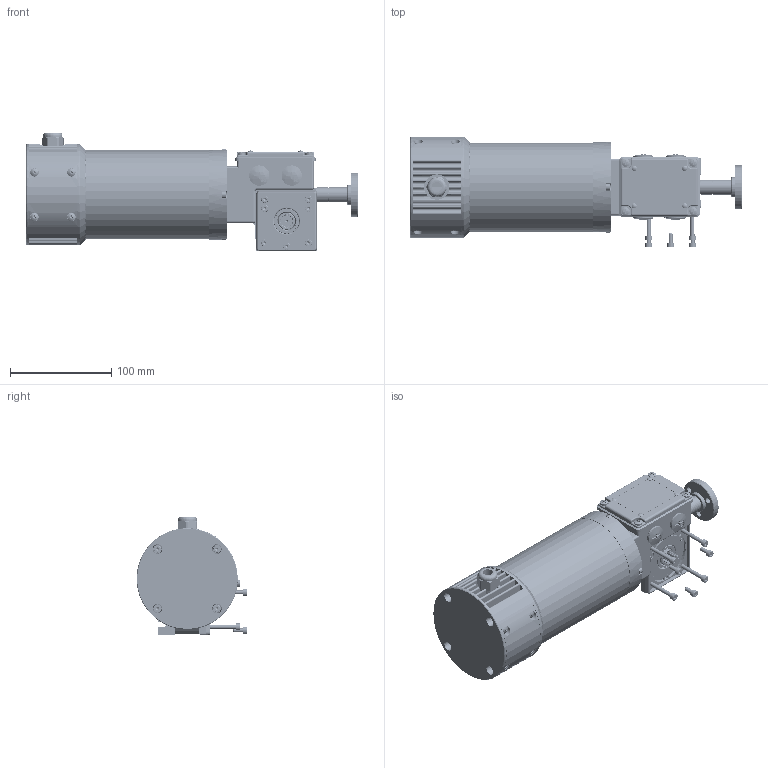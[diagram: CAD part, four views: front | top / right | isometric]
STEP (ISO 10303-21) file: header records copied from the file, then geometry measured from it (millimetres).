
FILE_DESCRIPTION(/* description */ ('ANELLO OR 67.94X2.62 TIPO 32.68 VITON'),/* implementation_level */ '2;1');
FILE_NAME(/* name */ 'C:\Users\giuseppe.caruso.MINIMOTOR\Desktop\MODELLI STP\WEB\MCCE...MP4N B3S.stp',/* time_stamp */ '2014-07-10T11:35:09+02:00',/* author */ ('giuseppe.caruso'),/* organization */ (''),/* preprocessor_version */ 'ST-DEVELOPER v15.6',/* originating_system */ 'Autodesk Inventor 2015',/* authorisation */ '');
FILE_SCHEMA (('AUTOMOTIVE_DESIGN { 1 0 10303 214 3 1 1 }'));
Products named in the file (48): OR001; CRT001-1; CRT001-2; CRT001-3; CRT001-4; CRT001-5; CRT001-6; CRT001; ASF035; VCE410; VCE435; CHI003; VSE616; VTC408; VCE420; VCE416; SPN018; RIV014I; VTC410S; TPP001; BOC001; OR009; ALR050; CRN002; ING278; SRD061; GRN035; CPM005A; TRG001; STT032; MGN001S; MGN001N; STT032C; CPR060; CPR070; CUF044; CUF051-CSA; CUF055; GRN025; TPP009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
Bounding box: 327.9 x 109.5 x 117.5 mm (x, y, z)
Volume: 829947.1 mm3; surface area: 374648.5 mm2
Topology: 91 solids, 93 shells, 3924 faces, 10161 edges, 6572 vertices
Faces by surface type: plane 2156, cylinder 1130, cone 380, torus 180, sphere 55, bspline 23
Full cylindrical faces by diameter (mm): 1.6 x2, 2.459 x1, 2.5 x2, 2.6 x1, 2.7 x8, 3.242 x44, 3.4 x4, 3.8 x4, 4 x51, 4.134 x1, 4.2 x4, 4.25 x3, 4.5 x35, 4.917 x1, 5 x4, 5.1 x4, 6 x5, 6.561 x1, 7 x26, 7.25 x3, 7.5 x3, 7.6 x1, 8 x14, 8.5 x8, 10 x1, 11 x5, 11.57 x1, 14 x2, 14.376 x5, 14.38 x1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
Entity records: 78903 total; most frequent: CARTESIAN_POINT 15484, DIRECTION 13249, ORIENTED_EDGE 12280, EDGE_CURVE 6140, AXIS2_PLACEMENT_3D 4737, VERTEX_POINT 4173, LINE 3775, VECTOR 3775
